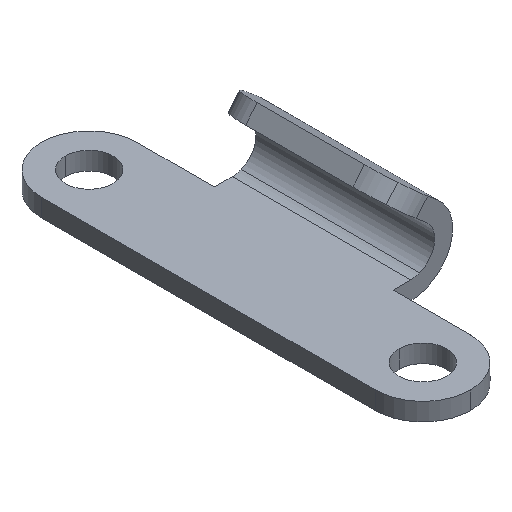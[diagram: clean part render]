
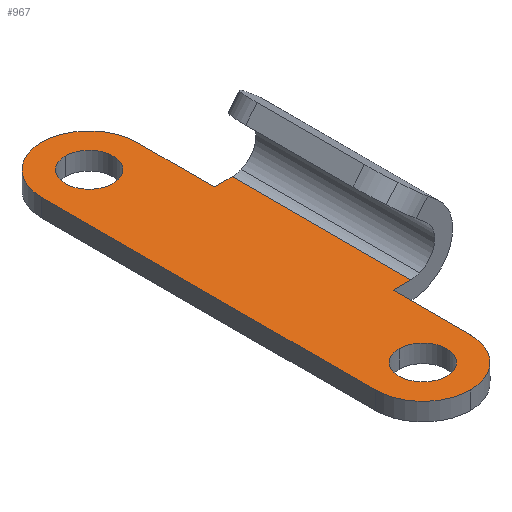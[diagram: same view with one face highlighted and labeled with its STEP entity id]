
A CAD part, isometric view. The second image highlights one B-rep face of the part: STEP entity #967.
In plain terms, the highlighted planar face has unit normal (0, 0, 1).
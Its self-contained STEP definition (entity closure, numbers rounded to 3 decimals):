
#141=CARTESIAN_POINT('',(-18.,6.529,0.75));
#142=VERTEX_POINT('',#141);
#151=CARTESIAN_POINT('',(-14.0,10.529,0.75));
#152=VERTEX_POINT('',#151);
#153=CARTESIAN_POINT('',(-14.0,6.529,0.75));
#154=DIRECTION('',(0.0,0.0,-1.0));
#155=DIRECTION('',(1.0,0.0,0.0));
#156=AXIS2_PLACEMENT_3D('',#153,#154,#155);
#157=CIRCLE('',#156,4.);
#158=EDGE_CURVE('',#142,#152,#157,.T.);
#185=CARTESIAN_POINT('',(18.0,6.529,0.75));
#186=VERTEX_POINT('',#185);
#202=CARTESIAN_POINT('',(14.0,10.529,0.75));
#203=VERTEX_POINT('',#202);
#210=CARTESIAN_POINT('',(14.0,6.529,0.75));
#211=DIRECTION('',(0.0,0.0,-1.0));
#212=DIRECTION('',(1.0,0.0,0.0));
#213=AXIS2_PLACEMENT_3D('',#210,#211,#212);
#214=CIRCLE('',#213,4.0);
#215=EDGE_CURVE('',#203,#186,#214,.T.);
#227=CARTESIAN_POINT('',(16.0,6.529,0.75));
#228=VERTEX_POINT('',#227);
#244=CARTESIAN_POINT('',(12.0,6.529,0.75));
#245=VERTEX_POINT('',#244);
#252=CARTESIAN_POINT('',(14.0,6.529,0.75));
#253=DIRECTION('',(0.0,0.0,-1.0));
#254=DIRECTION('',(1.0,0.0,0.0));
#255=AXIS2_PLACEMENT_3D('',#252,#253,#254);
#256=CIRCLE('',#255,2.0);
#257=EDGE_CURVE('',#228,#245,#256,.T.);
#269=CARTESIAN_POINT('',(-12.0,6.529,0.75));
#270=VERTEX_POINT('',#269);
#286=CARTESIAN_POINT('',(-16.0,6.529,0.75));
#287=VERTEX_POINT('',#286);
#294=CARTESIAN_POINT('',(-14.0,6.529,0.75));
#295=DIRECTION('',(0.0,0.0,-1.0));
#296=DIRECTION('',(1.0,0.0,0.0));
#297=AXIS2_PLACEMENT_3D('',#294,#295,#296);
#298=CIRCLE('',#297,2.0);
#299=EDGE_CURVE('',#270,#287,#298,.T.);
#641=CARTESIAN_POINT('',(7.5,2.529,0.75));
#642=VERTEX_POINT('',#641);
#649=CARTESIAN_POINT('',(7.5,1.029,0.75));
#650=VERTEX_POINT('',#649);
#651=CARTESIAN_POINT('',(7.5,2.529,0.75));
#652=DIRECTION('',(0.0,-1.0,0.0));
#653=VECTOR('',#652,1.5);
#654=LINE('',#651,#653);
#655=EDGE_CURVE('',#642,#650,#654,.T.);
#676=CARTESIAN_POINT('',(-7.5,1.029,0.75));
#677=VERTEX_POINT('',#676);
#678=CARTESIAN_POINT('',(-7.5,1.029,0.75));
#679=DIRECTION('',(1.0,0.0,0.0));
#680=VECTOR('',#679,15.0);
#681=LINE('',#678,#680);
#682=EDGE_CURVE('',#677,#650,#681,.T.);
#776=CARTESIAN_POINT('',(-14.0,6.529,0.75));
#777=DIRECTION('',(0.0,0.0,-1.0));
#778=DIRECTION('',(1.0,0.0,0.0));
#779=AXIS2_PLACEMENT_3D('',#776,#777,#778);
#780=CIRCLE('',#779,2.0);
#781=EDGE_CURVE('',#287,#270,#780,.T.);
#794=CARTESIAN_POINT('',(14.0,6.529,0.75));
#795=DIRECTION('',(0.0,0.0,-1.0));
#796=DIRECTION('',(1.0,0.0,0.0));
#797=AXIS2_PLACEMENT_3D('',#794,#795,#796);
#798=CIRCLE('',#797,2.0);
#799=EDGE_CURVE('',#245,#228,#798,.T.);
#811=CARTESIAN_POINT('',(-14.0,10.529,0.75));
#812=DIRECTION('',(1.0,0.0,0.0));
#813=VECTOR('',#812,28.0);
#814=LINE('',#811,#813);
#815=EDGE_CURVE('',#152,#203,#814,.T.);
#829=CARTESIAN_POINT('',(14.0,2.529,0.75));
#830=VERTEX_POINT('',#829);
#831=CARTESIAN_POINT('',(14.0,6.529,0.75));
#832=DIRECTION('',(0.0,0.0,-1.0));
#833=DIRECTION('',(1.0,0.0,0.0));
#834=AXIS2_PLACEMENT_3D('',#831,#832,#833);
#835=CIRCLE('',#834,4.0);
#836=EDGE_CURVE('',#186,#830,#835,.T.);
#853=CARTESIAN_POINT('',(14.0,2.529,0.75));
#854=DIRECTION('',(-1.0,0.0,0.0));
#855=VECTOR('',#854,6.5);
#856=LINE('',#853,#855);
#857=EDGE_CURVE('',#830,#642,#856,.T.);
#874=CARTESIAN_POINT('',(-7.5,2.529,0.75));
#875=VERTEX_POINT('',#874);
#876=CARTESIAN_POINT('',(-7.5,1.029,0.75));
#877=DIRECTION('',(0.0,1.0,0.0));
#878=VECTOR('',#877,1.5);
#879=LINE('',#876,#878);
#880=EDGE_CURVE('',#677,#875,#879,.T.);
#905=CARTESIAN_POINT('',(-14.0,2.529,0.75));
#906=VERTEX_POINT('',#905);
#907=CARTESIAN_POINT('',(-7.5,2.529,0.75));
#908=DIRECTION('',(-1.0,0.0,0.0));
#909=VECTOR('',#908,6.5);
#910=LINE('',#907,#909);
#911=EDGE_CURVE('',#875,#906,#910,.T.);
#932=CARTESIAN_POINT('',(-14.0,6.529,0.75));
#933=DIRECTION('',(0.0,0.0,-1.0));
#934=DIRECTION('',(1.0,0.0,0.0));
#935=AXIS2_PLACEMENT_3D('',#932,#933,#934);
#936=CIRCLE('',#935,4.);
#937=EDGE_CURVE('',#906,#142,#936,.T.);
#942=CARTESIAN_POINT('',(0.,2.139,0.75));
#943=DIRECTION('',(0.0,0.0,1.0));
#944=DIRECTION('',(1.0,0.0,0.0));
#945=AXIS2_PLACEMENT_3D('',#942,#943,#944);
#946=PLANE('',#945);
#947=ORIENTED_EDGE('',*,*,#682,.T.);
#948=ORIENTED_EDGE('',*,*,#655,.F.);
#949=ORIENTED_EDGE('',*,*,#857,.F.);
#950=ORIENTED_EDGE('',*,*,#836,.F.);
#951=ORIENTED_EDGE('',*,*,#215,.F.);
#952=ORIENTED_EDGE('',*,*,#815,.F.);
#953=ORIENTED_EDGE('',*,*,#158,.F.);
#954=ORIENTED_EDGE('',*,*,#937,.F.);
#955=ORIENTED_EDGE('',*,*,#911,.F.);
#956=ORIENTED_EDGE('',*,*,#880,.F.);
#957=EDGE_LOOP('',(#947,#948,#949,#950,#951,#952,#953,#954,#955,#956));
#958=FACE_OUTER_BOUND('',#957,.T.);
#959=ORIENTED_EDGE('',*,*,#299,.T.);
#960=ORIENTED_EDGE('',*,*,#781,.T.);
#961=EDGE_LOOP('',(#959,#960));
#962=FACE_BOUND('',#961,.T.);
#963=ORIENTED_EDGE('',*,*,#257,.T.);
#964=ORIENTED_EDGE('',*,*,#799,.T.);
#965=EDGE_LOOP('',(#963,#964));
#966=FACE_BOUND('',#965,.T.);
#967=ADVANCED_FACE('',(#958,#962,#966),#946,.T.);
